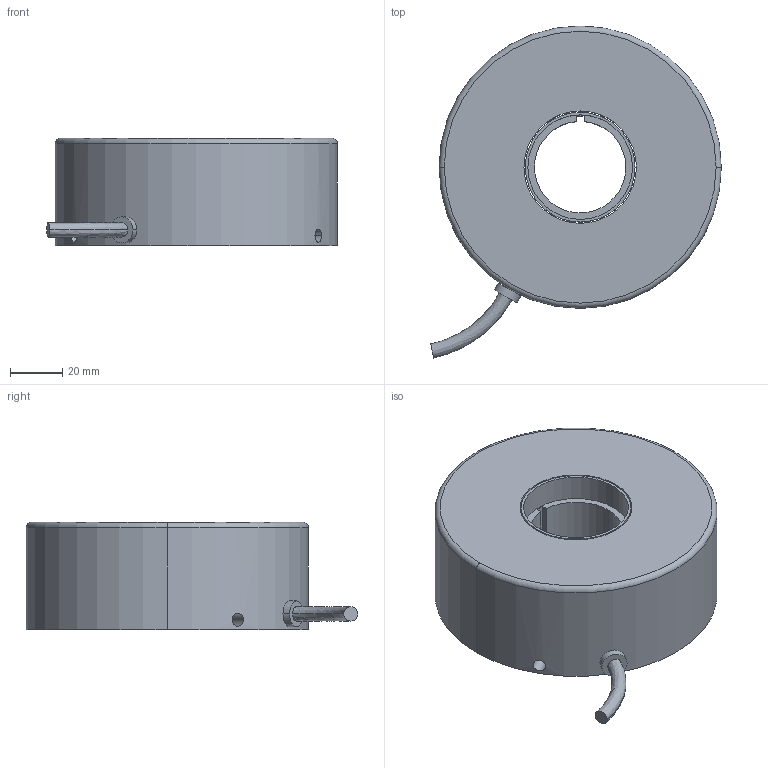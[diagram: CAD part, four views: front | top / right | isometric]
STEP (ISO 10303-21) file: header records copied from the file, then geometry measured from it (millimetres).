
FILE_DESCRIPTION (( 'STEP AP214' ), '1' );
FILE_NAME ('C_Assem1.STEP', '2024-06-18T01:30:56', ( '' ), ( '' ), 'SwSTEP 2.0', 'SolidWorks 2023', '' );
FILE_SCHEMA (( 'AUTOMOTIVE_DESIGN' ));
Length unit declared in the file: millimetre
Products named in the file (3): C_Part2; C_Assem1; C_Part1
Assembly tree (2 placements, depth 2):
  C_Assem1
    C_Part1
    C_Part2
Bounding box: 111.21 x 126.94 x 41 mm (x, y, z)
Volume: 292102.9 mm3; surface area: 45870.7 mm2
Topology: 3 solids, 3 shells, 37 faces, 82 edges, 54 vertices
Faces by surface type: cylinder 21, plane 12, torus 2, bspline 2
Entity records: 1583 total; most frequent: CARTESIAN_POINT 642, DIRECTION 186, ORIENTED_EDGE 164, EDGE_CURVE 82, AXIS2_PLACEMENT_3D 78, VERTEX_POINT 54, EDGE_LOOP 50, CIRCLE 38
